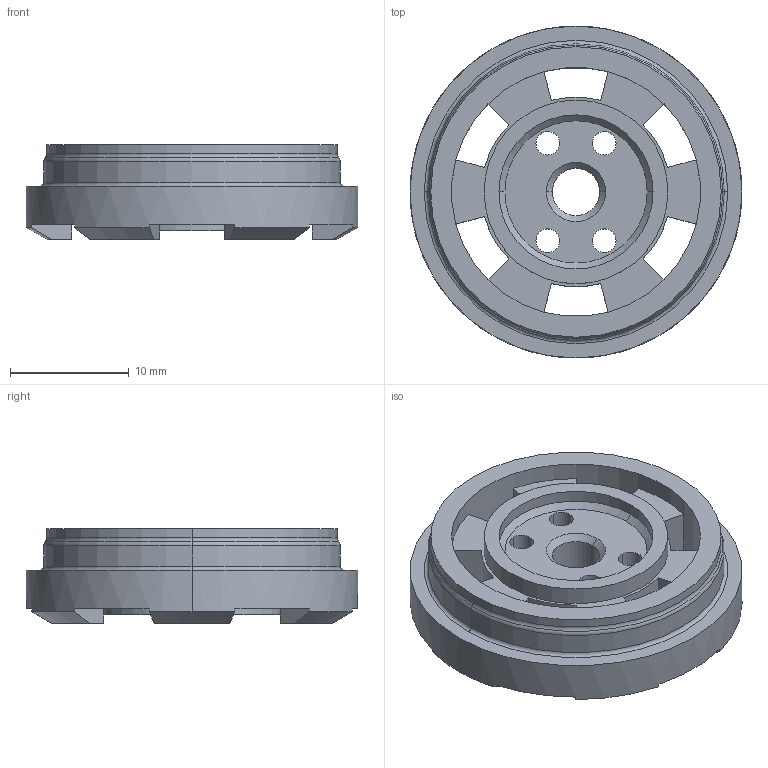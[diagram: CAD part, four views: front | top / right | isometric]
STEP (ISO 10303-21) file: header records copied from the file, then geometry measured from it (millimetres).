
FILE_DESCRIPTION(('FreeCAD Model'),'2;1');
FILE_NAME('Open CASCADE Shape Model','2026-07-02T19:52:43',(''),(''), 'Open CASCADE STEP processor 7.8','FreeCAD','Unknown');
FILE_SCHEMA(('AP242_MANAGED_MODEL_BASED_3D_ENGINEERING_MIM_LF. {1 0 10303 442 1 1 4 }'));
Length unit declared in the file: millimetre
Products named in the file (1): 75T0024
Bounding box: 28 x 28 x 8 mm (x, y, z)
Volume: 2868.1 mm3; surface area: 2628.3 mm2
Topology: 1 solids, 1 shells, 105 faces, 270 edges, 162 vertices
Faces by surface type: plane 45, cylinder 40, cone 14, torus 6
Entity records: 3244 total; most frequent: DIRECTION 608, ORIENTED_EDGE 540, CARTESIAN_POINT 538, EDGE_CURVE 270, AXIS2_PLACEMENT_3D 232, VERTEX_POINT 162, LINE 144, VECTOR 144
